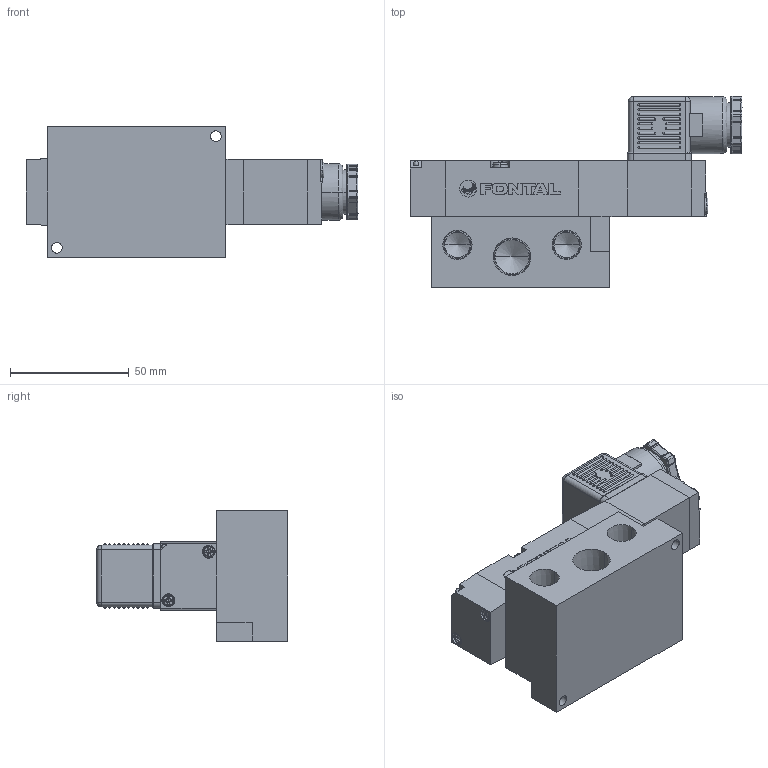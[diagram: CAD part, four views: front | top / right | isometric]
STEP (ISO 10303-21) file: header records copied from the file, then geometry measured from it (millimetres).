
FILE_DESCRIPTION (( 'STEP AP203' ), '1' );
FILE_NAME ('PCS2408#-03-#C#.STEP', '2016-02-04T06:03:57', ( 'Sam Lin' ), ( '' ), 'SwSTEP 2.0', 'SolidWorks 2013', '' );
FILE_SCHEMA (( 'CONFIG_CONTROL_DESIGN' ));
Length unit declared in the file: metre
Products named in the file (13): PC08-4; PC08-MARK; PC6-M4; PC6-M3; PCS2406-7; PC08-1; PCS2406-8; PC08-2; PCS2406-9; PC08-3; PCS2406-3-C; PCS2406-3-小圓珠; PCS2408#-03-#C#
Assembly tree (18 placements, depth 2):
  PCS2408#-03-#C#
    PC08-1
    PC08-2
    PC08-3
    PCS2406-3-小圓珠  x2
    PC08-4
    PC08-MARK
    PC6-M4  x3
    PC6-M3  x4
    PCS2406-7
    PCS2406-8
    PCS2406-9
    PCS2406-3-C
Bounding box: 139.85 x 80.64 x 55 mm (x, y, z)
Volume: 215453.8 mm3; surface area: 49110.5 mm2
Topology: 24 solids, 24 shells, 786 faces, 2004 edges, 1158 vertices
Faces by surface type: plane 316, bspline 200, cylinder 191, cone 79
Entity records: 25653 total; most frequent: CARTESIAN_POINT 10901, ORIENTED_EDGE 2856, DIRECTION 2560, EDGE_CURVE 1428, AXIS2_PLACEMENT_3D 928, VERTEX_POINT 901, VECTOR 704, LINE 704
